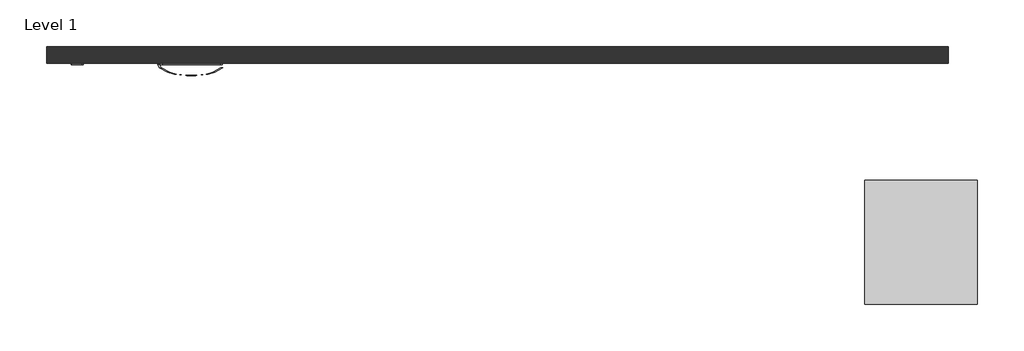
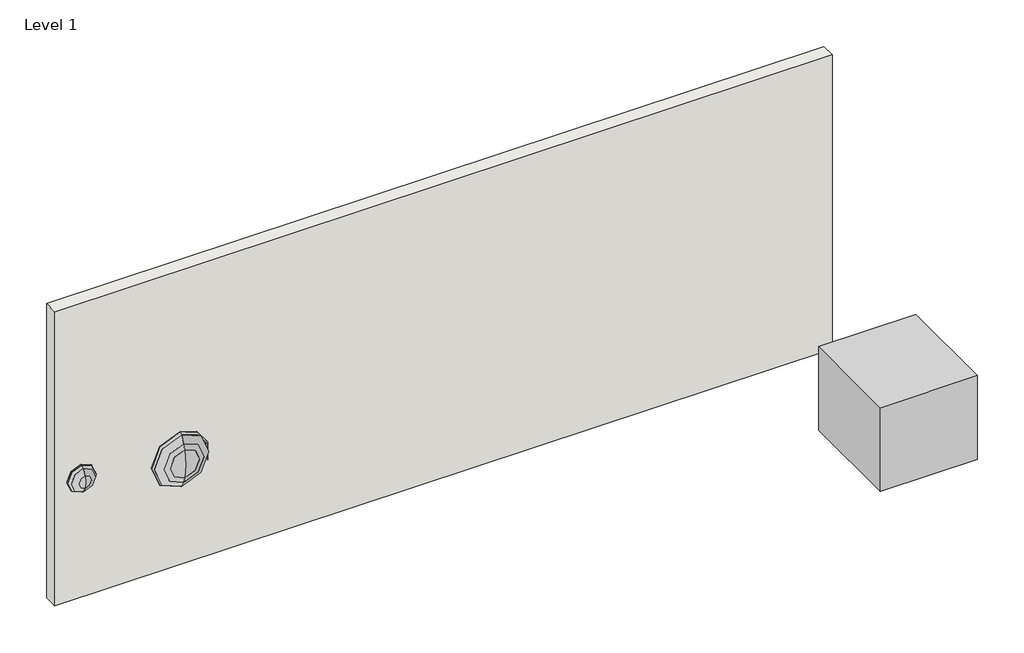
# One storey, incomplete: 3 furniture elements, 1 wall.
"""IFC4 building model written with IfcOpenShell, lengths in millimetres."""

from ifc_helpers import new_model, si_unit, origin, origin_with_axes, place, context, project, spatial, polyline, outline, extrude, transform, mapped, element, save
from components import convex_circle_large_convex_circle_large_e409688c, convex_circle_small_convex_circle_small_b8fd611a, furniture_1_furniture_1_dc6bc50a

model = new_model("IFC4")

# Units and contexts
model_context = context("Model", 3, world=origin())
ifc_project = project(units=[si_unit("LENGTHUNIT", "METRE", prefix="MILLI")], contexts=[model_context])

# Site, building, storey
site = spatial("IfcSite", under=ifc_project)
building = spatial("IfcBuilding", under=site)
storey = spatial("IfcBuildingStorey", under=building, Name="Level 1", Elevation=0.0)

# Furniture
placement = place(None, origin())
convex_circle_large_convex_circle_large_shape = convex_circle_large_convex_circle_large_e409688c(model_context)
element("IfcFurniture", 1, ObjectType="Convex Circle Large : Convex Circle Large", at=placement, inside=storey, context=model_context, shape_type="MappedRepresentation", body=[
    mapped(convex_circle_large_convex_circle_large_shape, transform((1282.4734825, -75.0, 1381.0472254), x_axis=(1.0, 0.0, 0.0), y_axis=(0.0, 0.0, 1.0), z_axis=(0.0, -1.0, 0.0))),
])
convex_circle_small_convex_circle_small_shape = convex_circle_small_convex_circle_small_b8fd611a(model_context)
element("IfcFurniture", 2, ObjectType="Convex Circle Small : Convex Circle Small", at=placement, inside=storey, context=model_context, shape_type="MappedRepresentation", body=[
    mapped(convex_circle_small_convex_circle_small_shape, transform((265.3637405, -75.0, 1381.0472254), x_axis=(1.0, 0.0, 0.0), y_axis=(0.0, 0.0, 1.0), z_axis=(0.0, -1.0, 0.0))),
])
furniture_1_furniture_1_shape = furniture_1_furniture_1_dc6bc50a(model_context)
element("IfcFurniture", 3, ObjectType="Furniture 1 : Furniture 1", at=placement, inside=storey, context=model_context, shape_type="MappedRepresentation", body=[
    mapped(furniture_1_furniture_1_shape, transform((-67.8424695, 7.5710855, 0.0), x_axis=(1.0, 0.0, 0.0), y_axis=(0.0, 1.0, 0.0), z_axis=(0.0, 0.0, 1.0))),
])

# Wall
element("IfcWall", 4, ObjectType="Generic - 150", at=placement, inside=storey, context=model_context, shape_type="SweptSolid", body=[
    extrude(outline(polyline([(8000.0, -75.0), (0.0, -75.0), (0.0, 75.0), (8000.0, 75.0), (8000.0, -75.0)])), origin_with_axes(), (0.0, 0.0, 1.0), 3200.0),
])

save(model, "model.ifc")
